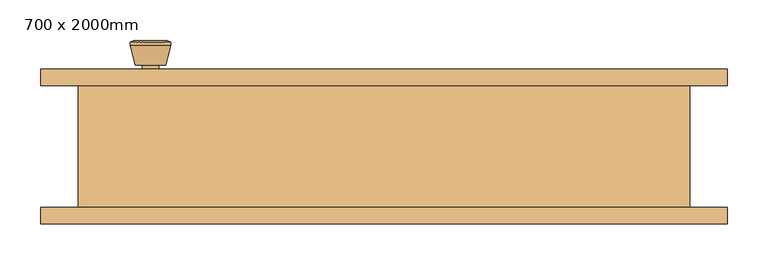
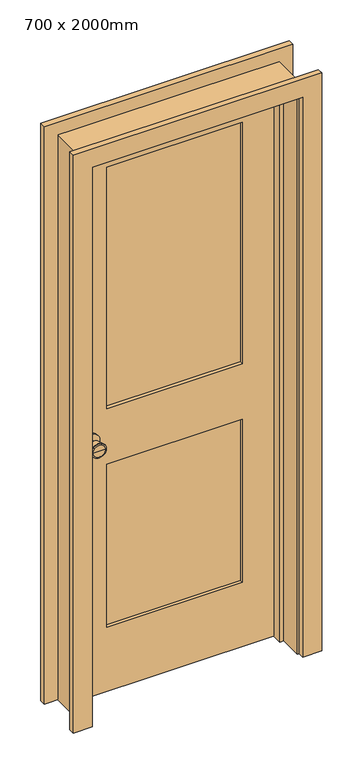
"""IFC4 building model written with IfcOpenShell, lengths in millimetres: door geometry, M_Dveře, vnitřní, jednokřídlé, dvě části, panel, dřevo : 700 x 2000mm."""

from ifc_helpers import new_model, si_unit, point, frame, frame_2d, origin, place, context, project, spatial, polyline, circle_curve, trimmed, segment, composite_curve, outline, extrude, faceted_brep, source, transform, mapped, element, save
from ifc_brep_helpers import plane_surface, cylinder_surface, revolved_surface, advanced_brep


def door_700_x_2000mm_35cf3881(model_context):
    return source(origin(), model_context, "Body", "SolidModel", [
        advanced_brep(
        [(-286.5, 30.825, 914.4), (-276.5, 30.825, 914.4), (-296.5, 30.825, 914.4), (-266.0241324, -18.175, 914.4), (-286.5, -18.175, 914.4), (-306.9758676, -18.175, 914.4), (-261.5, -16.3471319, 914.4), (-311.5, -16.3471319, 914.4), (-261.5, -12.8834537, 914.4), (-311.5, -12.8834537, 914.4), (-267.863764, 11.825, 914.4), (-305.136236, 11.825, 914.4), (-276.5, 11.825, 914.4), (-296.5, 11.825, 914.4)],
        [
            (0, 1),
            (1, 2, circle_curve(frame((-286.5, 30.825, 914.4), z_axis=(0.0, 1.0, 0.0), x_axis=(-1.0, 0.0, 0.0)), 10.0)),
            (2, 0),
            (2, 1, circle_curve(frame((-286.5, 30.825, 914.4), z_axis=(0.0, 1.0, 0.0), x_axis=(-1.0, 0.0, 0.0)), 10.0)),
            (3, 4),
            (4, 5),
            (5, 3, circle_curve(frame((-286.5, -18.175, 914.4), z_axis=(0.0, -1.0, 0.0), x_axis=(-1.0, 0.0, 0.0)), 20.4758676)),
            (3, 5, circle_curve(frame((-286.5, -18.175, 914.4), z_axis=(0.0, -1.0, 0.0), x_axis=(-1.0, 0.0, 0.0)), 20.4758676)),
            (6, 3),
            (5, 7),
            (7, 6, circle_curve(frame((-286.5, -16.3471319, 914.4), z_axis=(0.0, -1.0, 0.0), x_axis=(-1.0, 0.0, 0.0)), 25.0)),
            (6, 7, circle_curve(frame((-286.5, -16.3471319, 914.4), z_axis=(0.0, -1.0, 0.0), x_axis=(-1.0, 0.0, 0.0)), 25.0)),
            (8, 6),
            (7, 9),
            (9, 8, circle_curve(frame((-286.5, -12.8834537, 914.4), z_axis=(0.0, -1.0, 0.0), x_axis=(-1.0, 0.0, 0.0)), 25.0)),
            (8, 9, circle_curve(frame((-286.5, -12.8834537, 914.4), z_axis=(0.0, -1.0, 0.0), x_axis=(-1.0, 0.0, 0.0)), 25.0)),
            (10, 8),
            (9, 11),
            (11, 10, circle_curve(frame((-286.5, 11.825, 914.4), z_axis=(0.0, -1.0, 0.0), x_axis=(-1.0, 0.0, 0.0)), 18.636236)),
            (10, 11, circle_curve(frame((-286.5, 11.825, 914.4), z_axis=(0.0, -1.0, 0.0), x_axis=(-1.0, 0.0, 0.0)), 18.636236)),
            (12, 10),
            (11, 13),
            (13, 12, circle_curve(frame((-286.5, 11.825, 914.4), z_axis=(0.0, -1.0, 0.0), x_axis=(-1.0, 0.0, 0.0)), 10.0)),
            (12, 13, circle_curve(frame((-286.5, 11.825, 914.4), z_axis=(0.0, -1.0, 0.0), x_axis=(-1.0, 0.0, 0.0)), 10.0)),
            (1, 12),
            (13, 2),
        ],
        [
            plane_surface(frame((-286.5, 30.825, 914.4), z_axis=(0.0, 1.0, 0.0), x_axis=(-1.0, 0.0, 0.0))),
            plane_surface(frame((-286.5, -18.175, 914.4), z_axis=(0.0, -1.0, 0.0), x_axis=(-1.0, 0.0, 0.0))),
            revolved_surface(polyline([(-306.9758676, -18.175, 914.4), (-311.5, -16.3471319, 914.4)]), (-286.5, 30.825, 914.4), (0.0, 1.0, 0.0)),
            cylinder_surface(frame((-286.5, 30.825, 914.4), z_axis=(0.0, 1.0, 0.0), x_axis=(-1.0, 0.0, 0.0)), 25.0),
            revolved_surface(polyline([(-311.5, -12.8834537, 914.4), (-305.136236, 11.825, 914.4)]), (-286.5, 30.825, 914.4), (0.0, 1.0, 0.0)),
            plane_surface(frame((-286.5, 11.825, 914.4), z_axis=(0.0, 1.0, 0.0), x_axis=(-1.0, 0.0, 0.0))),
            cylinder_surface(frame((-286.5, 30.825, 914.4), z_axis=(0.0, 1.0, 0.0), x_axis=(-1.0, 0.0, 0.0)), 10.0),
        ],
        [
            (0, [[1, 2, 3]]),
            (0, [[-3, 4, -1]]),
            (1, [[5, 6, 7]]),
            (1, [[-6, -5, 8]]),
            (2, [[9, -7, 10, 11]]),
            (2, [[-10, -8, -9, 12]]),
            (3, [[13, -11, 14, 15]]),
            (3, [[-14, -12, -13, 16]]),
            (4, [[17, -15, 18, 19]]),
            (4, [[-18, -16, -17, 20]]),
            (5, [[21, -19, 22, 23]]),
            (5, [[-22, -20, -21, 24]]),
            (6, [[25, -23, 26, -2]]),
            (6, [[-26, -24, -25, -4]]),
        ],
    ),
        extrude(outline(composite_curve([segment(trimmed(circle_curve(frame_2d((914.4, -286.5)), 30.0), [point((914.4, -316.5))], [point((914.4, -256.5))], False, "CARTESIAN"), True, "CONTINUOUS"), segment(trimmed(circle_curve(frame_2d((914.4, -286.5)), 30.0), [point((914.4, -256.5))], [point((914.4, -316.5))], False, "CARTESIAN"), True, "CONTINUOUS")], self_intersect=False)), frame((0.0, 30.825, 0.0), z_axis=(0.0, 1.0, 0.0), x_axis=(0.0, 0.0, 1.0)), (0.0, 0.0, 1.0), 6.0),
        advanced_brep(
        [(-286.5, 77.825, 914.4), (-296.5, 77.825, 914.4), (-276.5, 77.825, 914.4), (-266.0241324, 126.825, 914.4), (-306.9758676, 126.825, 914.4), (-286.5, 126.825, 914.4), (-261.5, 124.9971319, 914.4), (-311.5, 124.9971319, 914.4), (-261.5, 121.5334537, 914.4), (-311.5, 121.5334537, 914.4), (-267.863764, 96.825, 914.4), (-305.136236, 96.825, 914.4), (-276.5, 96.825, 914.4), (-296.5, 96.825, 914.4)],
        [
            (0, 1),
            (1, 2, circle_curve(frame((-286.5, 77.825, 914.4), z_axis=(0.0, -1.0, 0.0), x_axis=(-1.0, 0.0, 0.0)), 10.0)),
            (2, 0),
            (2, 1, circle_curve(frame((-286.5, 77.825, 914.4), z_axis=(0.0, -1.0, 0.0), x_axis=(-1.0, 0.0, 0.0)), 10.0)),
            (3, 4, circle_curve(frame((-286.5, 126.825, 914.4), z_axis=(0.0, 1.0, 0.0), x_axis=(-1.0, 0.0, 0.0)), 20.4758676)),
            (4, 5),
            (5, 3),
            (4, 3, circle_curve(frame((-286.5, 126.825, 914.4), z_axis=(0.0, 1.0, 0.0), x_axis=(-1.0, 0.0, 0.0)), 20.4758676)),
            (6, 7, circle_curve(frame((-286.5, 124.9971319, 914.4), z_axis=(0.0, 1.0, 0.0), x_axis=(-1.0, 0.0, 0.0)), 25.0)),
            (7, 4),
            (3, 6),
            (7, 6, circle_curve(frame((-286.5, 124.9971319, 914.4), z_axis=(0.0, 1.0, 0.0), x_axis=(-1.0, 0.0, 0.0)), 25.0)),
            (8, 9, circle_curve(frame((-286.5, 121.5334537, 914.4), z_axis=(0.0, 1.0, 0.0), x_axis=(-1.0, 0.0, 0.0)), 25.0)),
            (9, 7),
            (6, 8),
            (9, 8, circle_curve(frame((-286.5, 121.5334537, 914.4), z_axis=(0.0, 1.0, 0.0), x_axis=(-1.0, 0.0, 0.0)), 25.0)),
            (10, 11, circle_curve(frame((-286.5, 96.825, 914.4), z_axis=(0.0, 1.0, 0.0), x_axis=(-1.0, 0.0, 0.0)), 18.636236)),
            (11, 9),
            (8, 10),
            (11, 10, circle_curve(frame((-286.5, 96.825, 914.4), z_axis=(0.0, 1.0, 0.0), x_axis=(-1.0, 0.0, 0.0)), 18.636236)),
            (12, 13, circle_curve(frame((-286.5, 96.825, 914.4), z_axis=(0.0, 1.0, 0.0), x_axis=(-1.0, 0.0, 0.0)), 10.0)),
            (13, 11),
            (10, 12),
            (13, 12, circle_curve(frame((-286.5, 96.825, 914.4), z_axis=(0.0, 1.0, 0.0), x_axis=(-1.0, 0.0, 0.0)), 10.0)),
            (1, 13),
            (12, 2),
        ],
        [
            plane_surface(frame((-286.5, 77.825, 914.4), z_axis=(0.0, -1.0, 0.0), x_axis=(-1.0, 0.0, 0.0))),
            plane_surface(frame((-286.5, 126.825, 914.4), z_axis=(0.0, 1.0, 0.0), x_axis=(-1.0, 0.0, 0.0))),
            revolved_surface(polyline([(-306.9758676, 126.825, 914.4), (-311.5, 124.9971319, 914.4)]), (-286.5, 77.825, 914.4), (0.0, -1.0, 0.0)),
            cylinder_surface(frame((-286.5, 77.825, 914.4), z_axis=(0.0, -1.0, 0.0), x_axis=(-1.0, 0.0, 0.0)), 25.0),
            revolved_surface(polyline([(-311.5, 121.5334537, 914.4), (-305.136236, 96.825, 914.4)]), (-286.5, 77.825, 914.4), (0.0, -1.0, 0.0)),
            plane_surface(frame((-286.5, 96.825, 914.4), z_axis=(0.0, -1.0, 0.0), x_axis=(-1.0, 0.0, 0.0))),
            cylinder_surface(frame((-286.5, 77.825, 914.4), z_axis=(0.0, -1.0, 0.0), x_axis=(-1.0, 0.0, 0.0)), 10.0),
        ],
        [
            (0, [[1, 2, 3]]),
            (0, [[-3, 4, -1]]),
            (1, [[5, 6, 7]]),
            (1, [[8, -7, -6]]),
            (2, [[9, 10, -5, 11]]),
            (2, [[12, -11, -8, -10]]),
            (3, [[13, 14, -9, 15]]),
            (3, [[16, -15, -12, -14]]),
            (4, [[17, 18, -13, 19]]),
            (4, [[20, -19, -16, -18]]),
            (5, [[21, 22, -17, 23]]),
            (5, [[24, -23, -20, -22]]),
            (6, [[-2, 25, -21, 26]]),
            (6, [[-4, -26, -24, -25]]),
        ],
    ),
        extrude(outline(composite_curve([segment(trimmed(circle_curve(frame_2d((914.4, -286.5)), 30.0), [point((914.4, -316.5))], [point((914.4, -256.5))], False, "CARTESIAN"), True, "CONTINUOUS"), segment(trimmed(circle_curve(frame_2d((914.4, -286.5)), 30.0), [point((914.4, -256.5))], [point((914.4, -316.5))], False, "CARTESIAN"), True, "CONTINUOUS")], self_intersect=False)), frame((0.0, 71.825, 0.0), z_axis=(0.0, 1.0, 0.0), x_axis=(0.0, 0.0, 1.0)), (0.0, 0.0, 1.0), 6.0),
        faceted_brep([(375.0, 71.825, 0.0), (375.0, -78.175, 0.0), (350.0, -78.175, 0.0), (350.0, 1.9, 0.0), (337.3, 1.9, 0.0), (337.3, 36.825, 0.0), (350.0, 36.825, 0.0), (350.0, 71.825, 0.0), (375.0, 71.825, 2025.0), (375.0, -78.175, 2025.0), (-375.0, -78.175, 2025.0), (-375.0, -78.175, 0.0), (-350.0, -78.175, 0.0), (-350.0, -78.175, 2000.0), (350.0, -78.175, 2000.0), (350.0, 1.9, 2000.0), (-350.0, 1.9, 2000.0), (-350.0, 1.9, 0.0), (-337.3, 1.9, 0.0), (-337.3, 1.9, 1987.3), (337.3, 1.9, 1987.3), (337.3, 36.825, 1987.3), (-337.3, 36.825, 1987.3), (-337.3, 36.825, 0.0), (-350.0, 36.825, 0.0), (-350.0, 36.825, 2000.0), (350.0, 36.825, 2000.0), (350.0, 71.825, 2000.0), (-350.0, 71.825, 2000.0), (-350.0, 71.825, 0.0), (-375.0, 71.825, 0.0), (-375.0, 71.825, 2025.0)], [[[0, 1, 2, 3, 4, 5, 6, 7]], [[1, 0, 8, 9]], [[2, 1, 9, 10, 11, 12, 13, 14]], [[3, 2, 14, 15]], [[4, 3, 15, 16, 17, 18, 19, 20]], [[5, 4, 20, 21]], [[6, 5, 21, 22, 23, 24, 25, 26]], [[7, 6, 26, 27]], [[0, 7, 27, 28, 29, 30, 31, 8]], [[9, 8, 31, 10]], [[15, 14, 13, 16]], [[21, 20, 19, 22]], [[27, 26, 25, 28]], [[30, 29, 24, 23, 18, 17, 12, 11]], [[10, 31, 30, 11]], [[16, 13, 12, 17]], [[22, 19, 18, 23]], [[28, 25, 24, 29]]]),
        extrude(outline(polyline([(2000.0, -350.0), (0.0, -350.0), (0.0, 350.0), (2000.0, 350.0), (2000.0, -350.0)]), holes=[polyline([(1880.0, -230.0), (1880.0, 230.0), (1014.4, 230.0), (1014.4, -230.0), (1880.0, -230.0)]), polyline([(814.4, -230.0), (814.4, 230.0), (230.0, 230.0), (230.0, -230.0), (814.4, -230.0)])]), frame((0.0, 36.825, 0.0), z_axis=(0.0, 1.0, 0.0), x_axis=(0.0, 0.0, 1.0)), (0.0, 0.0, 1.0), 35.0),
        extrude(outline(polyline([(230.0, 48.4916667), (-230.0, 48.4916667), (-230.0, 60.1583333), (230.0, 60.1583333), (230.0, 48.4916667)])), frame((0.0, 0.0, 1014.4), z_axis=(0.0, 0.0, 1.0), x_axis=(1.0, 0.0, 0.0)), (0.0, 0.0, 1.0), 865.6),
        extrude(outline(polyline([(230.0, 48.4916667), (-230.0, 48.4916667), (-230.0, 60.1583333), (230.0, 60.1583333), (230.0, 48.4916667)])), frame((0.0, 0.0, 230.0), z_axis=(0.0, 0.0, 1.0), x_axis=(1.0, 0.0, 0.0)), (0.0, 0.0, 1.0), 584.4),
        extrude(outline(polyline([(0.0, 356.35), (0.0, 421.35), (2071.35, 421.35), (2071.35, -421.35), (0.0, -421.35), (0.0, -356.35), (2006.35, -356.35), (2006.35, 356.35), (0.0, 356.35)])), frame((0.0, 71.825, 0.0), z_axis=(0.0, 1.0, 0.0), x_axis=(0.0, 0.0, 1.0)), (0.0, 0.0, 1.0), 20.0),
        extrude(outline(polyline([(0.0, 356.35), (0.0, 421.35), (2071.35, 421.35), (2071.35, -421.35), (0.0, -421.35), (0.0, -356.35), (2006.35, -356.35), (2006.35, 356.35), (0.0, 356.35)])), frame((0.0, -98.175, 0.0), z_axis=(0.0, 1.0, 0.0), x_axis=(0.0, 0.0, 1.0)), (0.0, 0.0, 1.0), 20.0),
    ])


if __name__ == "__main__":
    model = new_model("IFC4")
    model_context = context("Model", 3, world=origin())
    ifc_project = project(units=[si_unit("LENGTHUNIT", "METRE", prefix="MILLI")], contexts=[model_context])
    site = spatial("IfcSite", under=ifc_project)
    building = spatial("IfcBuilding", under=site)
    placement = place(None, origin())
    door_700_x_2000mm_shape = door_700_x_2000mm_35cf3881(model_context)
    element("IfcDoor", 1, ObjectType="M_Dveře, vnitřní, jednokřídlé, dvě části, panel, dřevo : 700 x 2000mm", at=placement, inside=building, context=model_context, shape_type="MappedRepresentation", body=[
        mapped(door_700_x_2000mm_shape, transform((0.0, 0.0, 0.0), x_axis=(1.0, 0.0, 0.0), y_axis=(0.0, 1.0, 0.0), z_axis=(0.0, 0.0, 1.0))),
    ])
    save(model, "model.ifc")
